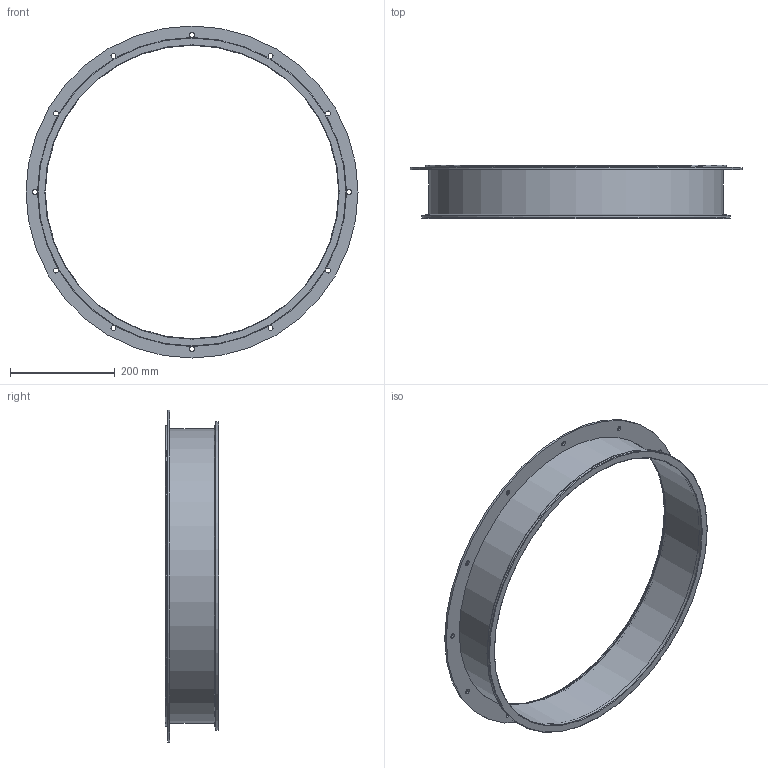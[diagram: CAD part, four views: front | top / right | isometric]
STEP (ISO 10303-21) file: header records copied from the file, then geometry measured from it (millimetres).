
FILE_DESCRIPTION(/* description */ (''),/* implementation_level */ '2;1');
FILE_NAME(/* name */ 'METU_EA111-41B_560_L100.stp',/* time_stamp */ '2018-10-10T13:33:54+02:00',/* author */ (''),/* organization */ (''),/* preprocessor_version */ 'ST-DEVELOPER v11',/* originating_system */ 'SIEMENS UGS NX 6.0',/* authorisation */ '');
FILE_SCHEMA (('CONFIG_CONTROL_DESIGN'));
Length unit declared in the file: millimetre
Products named in the file (1): garsCF17de9h
Bounding box: 634 x 101.5 x 634 mm (x, y, z)
Volume: 656291.3 mm3; surface area: 621367.8 mm2
Topology: 3 solids, 3 shells, 36 faces, 93 edges, 66 vertices
Faces by surface type: cylinder 21, plane 9, torus 5, cone 1
Full cylindrical faces by diameter (mm): 9.5 x12, 560 x2, 562 x2, 564 x1, 572 x2, 590 x1, 634 x1
Entity records: 986 total; most frequent: DIRECTION 170, CARTESIAN_POINT 133, FACE_BOUND 96, EDGE_LOOP 96, ORIENTED_EDGE 96, AXIS2_PLACEMENT_3D 85, VERTEX_POINT 48, EDGE_CURVE 48
